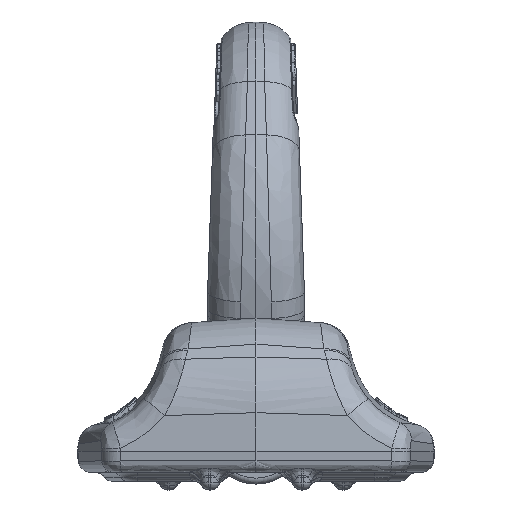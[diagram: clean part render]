
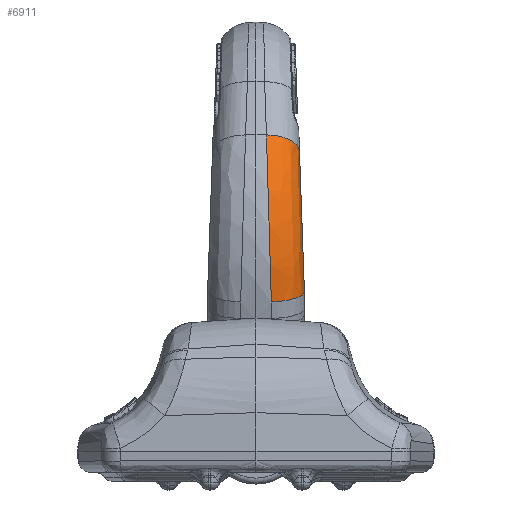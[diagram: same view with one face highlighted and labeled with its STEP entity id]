
A CAD part, left-side view. The second image highlights one B-rep face of the part: STEP entity #6911.
In plain terms, the highlighted free-form (B-spline) face has degree [3, 2] with [6, 3] control points.
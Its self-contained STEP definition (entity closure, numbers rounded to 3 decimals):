
#366=ELLIPSE('',#32799,31.872,31.853);
#5229=CIRCLE('',#32808,6.);
#5244=CIRCLE('',#32855,6.);
#6911=ADVANCED_FACE('',(#9721),#8553,.T.);
#8553=(
BOUNDED_SURFACE()
B_SPLINE_SURFACE(3,2,((#81581,#81582,#81583),(#81584,#81585,#81586),(#81587,
#81588,#81589),(#81590,#81591,#81592),(#81593,#81594,#81595),(#81596,#81597,
#81598)),.UNSPECIFIED.,.F.,.F.,.F.)
B_SPLINE_SURFACE_WITH_KNOTS((4,2,4),(3,3),(0.,0.5,1.),(0.,
1.),.UNSPECIFIED.)
GEOMETRIC_REPRESENTATION_ITEM()
RATIONAL_B_SPLINE_SURFACE(((1.,0.728,1.),(1.,0.73,
1.),(1.,0.731,1.),(1.,0.734,1.),(1.,0.736,
1.),(1.,0.737,1.)))
REPRESENTATION_ITEM('')
SURFACE()
);
#9721=FACE_OUTER_BOUND('',#11770,.T.);
#11770=EDGE_LOOP('',(#17829,#17830,#17831,#17832));
#17829=ORIENTED_EDGE('',*,*,#28376,.T.);
#17830=ORIENTED_EDGE('',*,*,#28417,.F.);
#17831=ORIENTED_EDGE('',*,*,#28465,.F.);
#17832=ORIENTED_EDGE('',*,*,#28360,.F.);
#24734=VERTEX_POINT('',#80942);
#24735=VERTEX_POINT('',#80944);
#24748=VERTEX_POINT('',#81008);
#24783=VERTEX_POINT('',#81255);
#28360=EDGE_CURVE('',#24734,#24735,#366,.T.);
#28376=EDGE_CURVE('',#24734,#24748,#5229,.T.);
#28417=EDGE_CURVE('',#24783,#24748,#31533,.T.);
#28465=EDGE_CURVE('',#24735,#24783,#5244,.T.);
#31533=B_SPLINE_CURVE_WITH_KNOTS('',3,(#81256,#81257,#81258,#81259,#81260,
#81261,#81262,#81263),.UNSPECIFIED.,.F.,.F.,(4,2,2,4),(0.,0.25,0.5,1.),.UNSPECIFIED.);
#32799=AXIS2_PLACEMENT_3D('',#80943,#37121,#37122);
#32808=AXIS2_PLACEMENT_3D('',#81009,#37147,#37148);
#32855=AXIS2_PLACEMENT_3D('',#81580,#37263,#37264);
#37121=DIRECTION('',(0.,-0.999,0.035));
#37122=DIRECTION('',(0.,0.035,0.999));
#37147=DIRECTION('',(-0.498,-0.03,-0.867));
#37148=DIRECTION('',(0.867,0.,-0.498));
#37263=DIRECTION('',(0.247,-0.034,-0.968));
#37264=DIRECTION('',(0.969,0.,0.247));
#80942=CARTESIAN_POINT('',(-27.619,-39.34,48.155));
#80943=CARTESIAN_POINT('',(0.,-39.894,32.287));
#80944=CARTESIAN_POINT('',(-30.864,-40.169,24.413));
#81008=CARTESIAN_POINT('',(-32.802,-33.763,50.938));
#81009=CARTESIAN_POINT('',(-27.619,-33.344,47.946));
#81255=CARTESIAN_POINT('',(-36.667,-34.592,22.738));
#81256=CARTESIAN_POINT('',(-36.667,-34.592,22.738));
#81257=CARTESIAN_POINT('',(-37.272,-34.522,25.112));
#81258=CARTESIAN_POINT('',(-37.639,-34.451,27.508));
#81259=CARTESIAN_POINT('',(-37.914,-34.309,32.339));
#81260=CARTESIAN_POINT('',(-37.818,-34.237,34.8));
#81261=CARTESIAN_POINT('',(-36.83,-34.025,42.023));
#81262=CARTESIAN_POINT('',(-35.245,-33.887,46.69));
#81263=CARTESIAN_POINT('',(-32.802,-33.763,50.938));
#81580=CARTESIAN_POINT('',(-30.864,-34.173,24.204));
#81581=CARTESIAN_POINT('',(-30.864,-40.169,24.413));
#81582=CARTESIAN_POINT('',(-36.332,-40.218,23.02));
#81583=CARTESIAN_POINT('',(-36.667,-34.592,22.738));
#81584=CARTESIAN_POINT('',(-31.876,-40.031,28.381));
#81585=CARTESIAN_POINT('',(-37.498,-40.055,27.687));
#81586=CARTESIAN_POINT('',(-37.868,-34.453,27.453));
#81587=CARTESIAN_POINT('',(-32.114,-39.886,32.544));
#81588=CARTESIAN_POINT('',(-37.754,-39.884,32.582));
#81589=CARTESIAN_POINT('',(-38.148,-34.308,32.398));
#81590=CARTESIAN_POINT('',(-31.005,-39.602,40.658));
#81591=CARTESIAN_POINT('',(-36.402,-39.552,42.106));
#81592=CARTESIAN_POINT('',(-36.827,-34.024,42.035));
#81593=CARTESIAN_POINT('',(-29.659,-39.464,44.604));
#81594=CARTESIAN_POINT('',(-34.802,-39.39,46.731));
#81595=CARTESIAN_POINT('',(-35.227,-33.887,46.722));
#81596=CARTESIAN_POINT('',(-27.619,-39.34,48.155));
#81597=CARTESIAN_POINT('',(-32.387,-39.245,50.891));
#81598=CARTESIAN_POINT('',(-32.802,-33.763,50.938));
